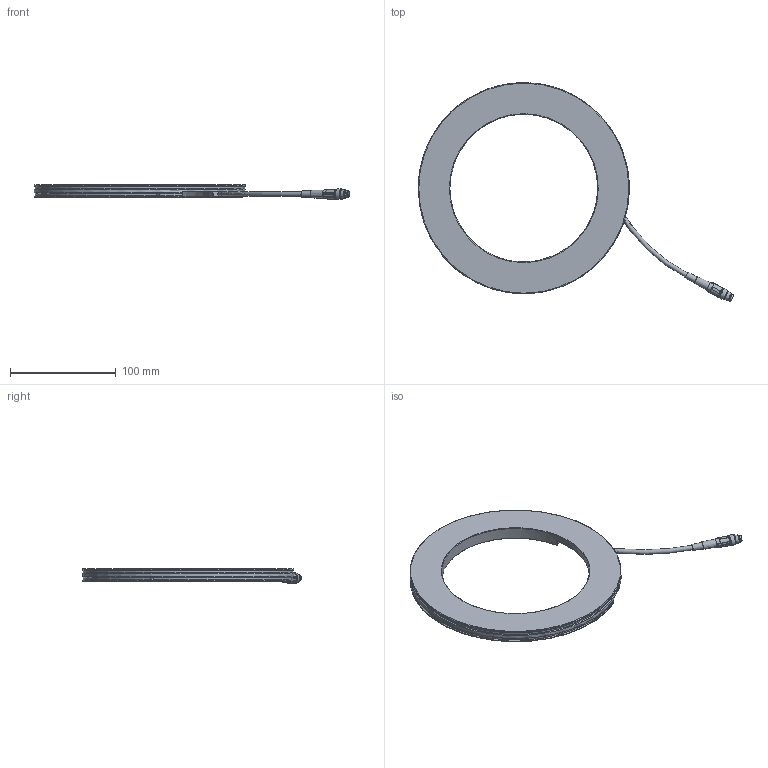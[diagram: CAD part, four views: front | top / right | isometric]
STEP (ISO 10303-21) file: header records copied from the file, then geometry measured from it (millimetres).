
FILE_DESCRIPTION(/* description */ ('Unknown','CAx-IF Rec.Pracs.---Representation and Presentation of Product Manufacturing Information (PMI)---4.0---2014-10-13','CAx-IF Rec.Pracs.---3D Tessellated Geometry---0.4---2014-09-14','2;1'),/* implementation_level */ '2;1');
FILE_NAME(/* name */ '10X.0080_BR200',/* time_stamp */ '2021-09-17T09:44:32+02:00',/* author */ ('AW'),/* organization */ ('iiM AG'),/* preprocessor_version */ 'ST-DEVELOPER v16.7',/* originating_system */ 'DEX',/* authorisation */ $);
FILE_SCHEMA (('AP242_MANAGED_MODEL_BASED_3D_ENGINEERING_MIM_LF { 1 0 10303 442 1 1 4 }'));
Length unit declared in the file: millimetre
Products named in the file (1): BR200
Bounding box: 298.84 x 207.32 x 14 mm (x, y, z)
Volume: 176474.5 mm3; surface area: 48158.7 mm2
Topology: 1 solids, 1 shells, 178 faces, 403 edges, 255 vertices
Faces by surface type: plane 82, cylinder 66, cone 23, torus 7
Full cylindrical faces by diameter (mm): 1 x4, 2.459 x2, 3 x2, 3.1 x2, 3.242 x12, 5.7 x1, 6 x1, 6.35 x1, 8 x2, 9 x1, 9.3 x2, 10 x1, 140 x1, 198.5 x1, 200 x2
Entity records: 6575 total; most frequent: CARTESIAN_POINT 1541, DIRECTION 803, ORIENTED_EDGE 692, EDGE_CURVE 346, AXIS2_PLACEMENT_3D 333, EDGE_LOOP 255, FACE_BOUND 255, VERTEX_POINT 245
